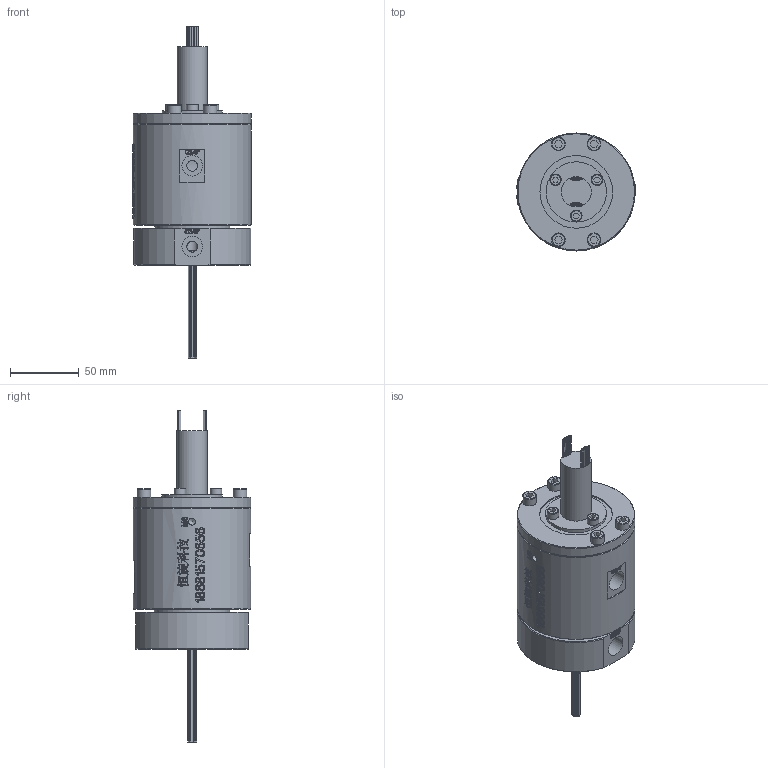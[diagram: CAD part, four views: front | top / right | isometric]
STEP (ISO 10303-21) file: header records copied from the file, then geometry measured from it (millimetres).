
FILE_DESCRIPTION(/* description */ (''),/* implementation_level */ '2;1');
FILE_NAME(/* name */ 'HQ0203-36M-3D模型.stp',/* time_stamp */ '2025-09-02T11:48:59+08:00',/* author */ (''),/* organization */ (''),/* preprocessor_version */ 'ST-DEVELOPER v16.7',/* originating_system */ 'SIEMENS PLM Software NX 12.0',/* authorisation */ '');
FILE_SCHEMA (('AUTOMOTIVE_DESIGN { 1 0 10303 214 3 1 1 1 }'));
Products named in the file (1): Admi1B40D54Exq40
Bounding box: 86.52 x 86 x 242.3 mm (x, y, z)
Volume: 642726.8 mm3; surface area: 76477.6 mm2
Topology: 1 solids, 6 shells, 1476 faces, 3864 edges, 2584 vertices
Faces by surface type: extrusion 730, plane 521, cylinder 139, bspline 58, cone 21, torus 7
Full cylindrical faces by diameter (mm): 0.8 x72, 5 x9, 5.5 x3, 7.8 x1, 8 x6, 8.5 x3, 9.4 x2, 9.5 x2, 10 x4, 15 x4, 17 x1, 22 x1, 33 x1, 33.5 x2, 44 x2, 51 x1, 52 x1, 53 x1, 55 x1, 65 x1, 86 x2
Entity records: 53791 total; most frequent: CARTESIAN_POINT 23460, ORIENTED_EDGE 7296, EDGE_CURVE 3648, DIRECTION 3478, B_SPLINE_CURVE_WITH_KNOTS 3425, VERTEX_POINT 2521, EDGE_LOOP 1817, ADVANCED_FACE 1474
